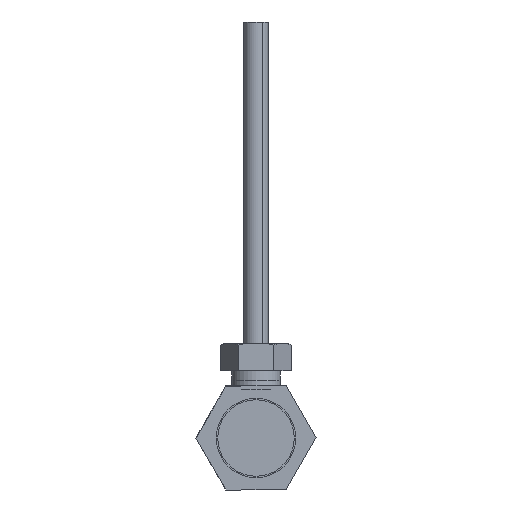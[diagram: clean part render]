
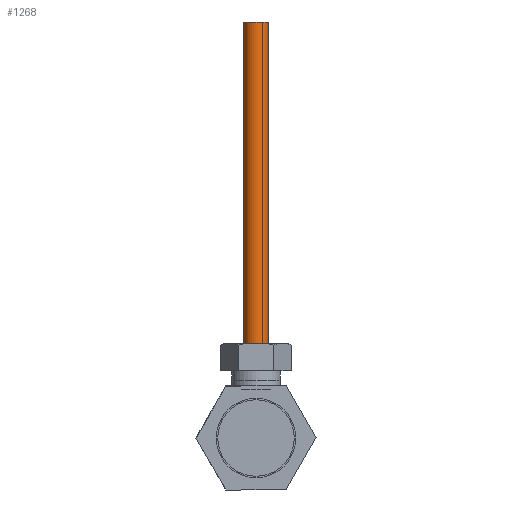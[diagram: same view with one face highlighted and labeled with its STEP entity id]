
A CAD part, front view. The second image highlights one B-rep face of the part: STEP entity #1268.
In plain terms, the highlighted cylindrical face has radius 2 mm (diameter 4 mm), a full revolution.
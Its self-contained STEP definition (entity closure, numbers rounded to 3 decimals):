
#210=CYLINDRICAL_SURFACE('',#2062,2.);
#463=ORIENTED_EDGE('',*,*,#596,.T.);
#464=ORIENTED_EDGE('',*,*,#597,.F.);
#596=EDGE_CURVE('',#709,#709,#788,.T.);
#597=EDGE_CURVE('',#710,#710,#789,.T.);
#709=VERTEX_POINT('',#2884);
#710=VERTEX_POINT('',#2886);
#788=CIRCLE('',#2063,2.);
#789=CIRCLE('',#2064,2.);
#956=EDGE_LOOP('',(#463));
#957=EDGE_LOOP('',(#464));
#1130=FACE_BOUND('',#956,.T.);
#1131=FACE_BOUND('',#957,.T.);
#1268=ADVANCED_FACE('',(#1130,#1131),#210,.T.);
#2062=AXIS2_PLACEMENT_3D('',#2882,#2462,#2463);
#2063=AXIS2_PLACEMENT_3D('',#2883,#2464,#2465);
#2064=AXIS2_PLACEMENT_3D('',#2885,#2466,#2467);
#2462=DIRECTION('',(0.,0.,-1.));
#2463=DIRECTION('',(-1.,0.,0.));
#2464=DIRECTION('',(0.,0.,-1.));
#2465=DIRECTION('',(1.,0.,0.));
#2466=DIRECTION('',(0.,0.,-1.));
#2467=DIRECTION('',(1.,0.,0.));
#2882=CARTESIAN_POINT('',(0.,0.,70.));
#2883=CARTESIAN_POINT('',(0.,0.,70.));
#2884=CARTESIAN_POINT('',(2.,0.,70.));
#2885=CARTESIAN_POINT('',(0.,0.,0.));
#2886=CARTESIAN_POINT('',(2.,0.,0.));
